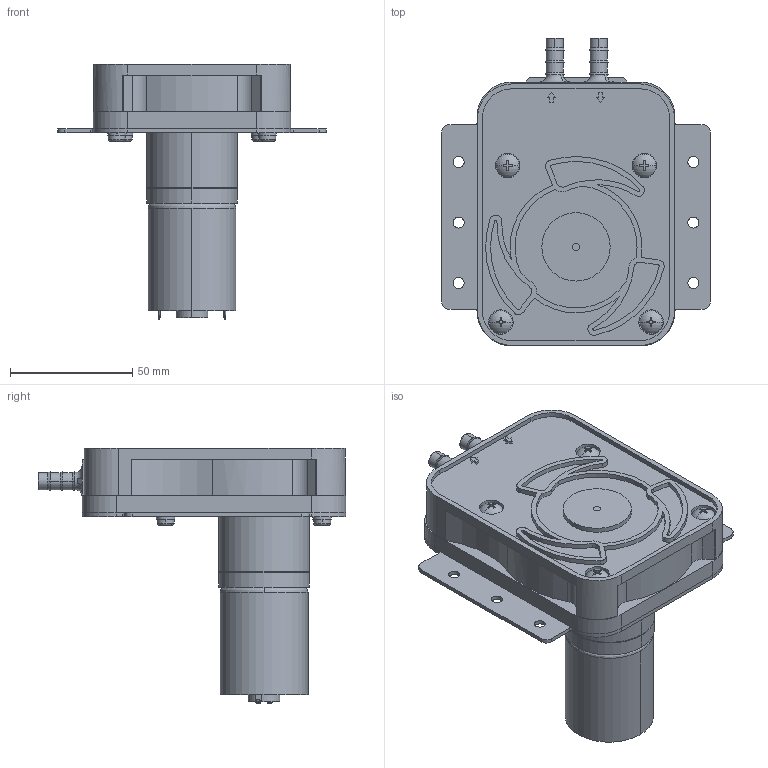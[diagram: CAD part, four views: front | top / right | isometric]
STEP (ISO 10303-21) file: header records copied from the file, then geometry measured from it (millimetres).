
FILE_DESCRIPTION (( 'STEP AP214' ), '1' );
FILE_NAME ('RP-S06x-500Z-.STEP', '2021-06-15T07:04:41', ( '' ), ( '' ), 'SwSTEP 2.0', 'SolidWorks 2021', '' );
FILE_SCHEMA (( 'AUTOMOTIVE_DESIGN' ));
Length unit declared in the file: millimetre
Products named in the file (10): RPS06N P 1-14; RPS06N P 1-13; TP-3644G-HM-36-S-24; WEB用下ケース; WEB用ジョイナー; RPS06N P1-12; RP-S06x-500Z-; RPS06N P 2-3; AR-BL29_RP-S_モーター取付板（曲げなし）; WEB用上ケース
Assembly tree (19 placements, depth 2):
  RP-S06x-500Z-
    RPS06N P1-12  x3
    RPS06N P 2-3  x3
    RPS06N P 1-13  x4
    RPS06N P 1-14  x4
    AR-BL29_RP-S_モーター取付板（曲げなし）
    TP-3644G-HM-36-S-24
    WEB用下ケース
    WEB用ジョイナー
    WEB用上ケース
Bounding box: 110 x 126 x 104.7 mm (x, y, z)
Volume: 357397.9 mm3; surface area: 96138.8 mm2
Topology: 21 solids, 24 shells, 1114 faces, 2854 edges, 1851 vertices
Faces by surface type: cylinder 528, plane 452, torus 71, cone 53, sphere 8, bspline 2
Entity records: 26208 total; most frequent: CARTESIAN_POINT 5338, DIRECTION 4548, ORIENTED_EDGE 4134, EDGE_CURVE 2067, AXIS2_PLACEMENT_3D 1781, VERTEX_POINT 1341, LINE 986, VECTOR 986
